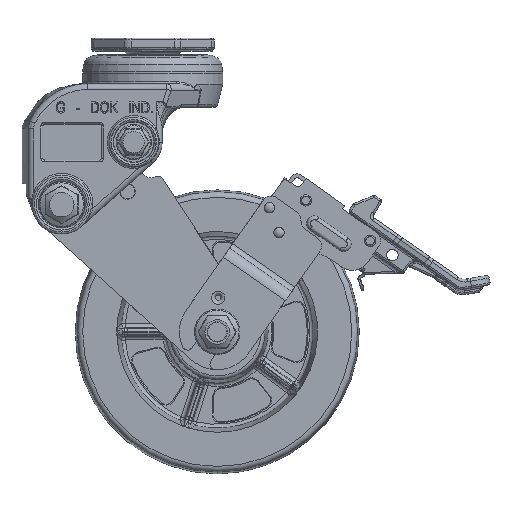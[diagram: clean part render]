
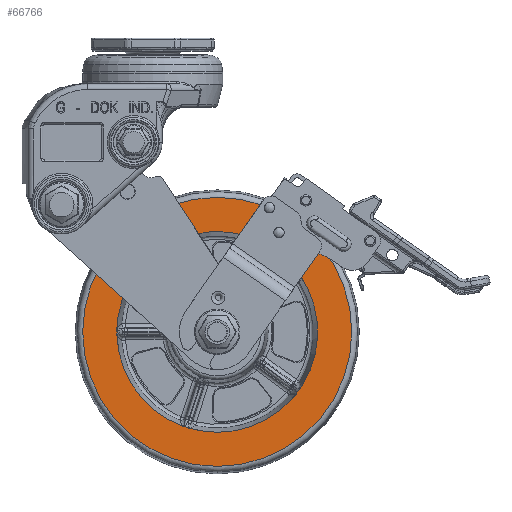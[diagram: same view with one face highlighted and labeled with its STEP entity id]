
A CAD part, left-side view. The second image highlights one B-rep face of the part: STEP entity #66766.
In plain terms, the highlighted planar face has unit normal (-1, 0, 0).
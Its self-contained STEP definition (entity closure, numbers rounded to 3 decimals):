
#38095=CARTESIAN_POINT('',(-19.95,-105.155,-145.514));
#38096=VERTEX_POINT('',#38095);
#38097=CARTESIAN_POINT('',(-19.95,-34.121,-145.514));
#38098=DIRECTION('',(1.0,0.0,0.0));
#38099=DIRECTION('',(0.0,1.0,0.0));
#38100=AXIS2_PLACEMENT_3D('',#38097,#38098,#38099);
#38101=CIRCLE('',#38100,71.035);
#38102=EDGE_CURVE('',#38096,#38096,#38101,.T.);
#38751=CARTESIAN_POINT('',(-19.95,-34.121,-198.514));
#38752=VERTEX_POINT('',#38751);
#38753=CARTESIAN_POINT('',(-19.95,-34.121,-145.514));
#38754=DIRECTION('',(-1.0,0.0,0.0));
#38755=DIRECTION('',(0.0,0.0,1.0));
#38756=AXIS2_PLACEMENT_3D('',#38753,#38754,#38755);
#38757=CIRCLE('',#38756,53.);
#38758=EDGE_CURVE('',#38752,#38752,#38757,.T.);
#66755=CARTESIAN_POINT('',(-19.95,-34.121,-89.514));
#66756=DIRECTION('',(-1.0,0.0,0.0));
#66757=DIRECTION('',(0.0,-1.0,0.0));
#66758=AXIS2_PLACEMENT_3D('',#66755,#66756,#66757);
#66759=PLANE('',#66758);
#66760=ORIENTED_EDGE('',*,*,#38102,.F.);
#66761=EDGE_LOOP('',(#66760));
#66762=FACE_OUTER_BOUND('',#66761,.T.);
#66763=ORIENTED_EDGE('',*,*,#38758,.F.);
#66764=EDGE_LOOP('',(#66763));
#66765=FACE_BOUND('',#66764,.T.);
#66766=ADVANCED_FACE('',(#66762,#66765),#66759,.T.);
